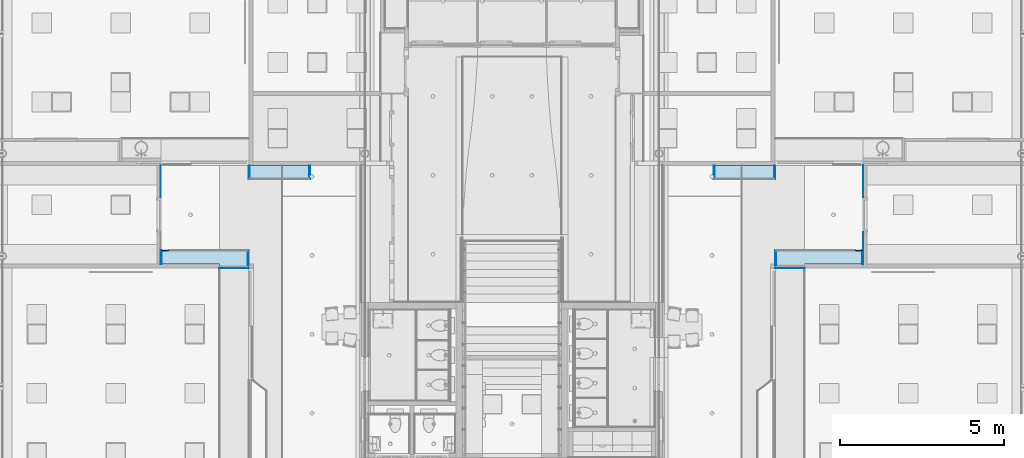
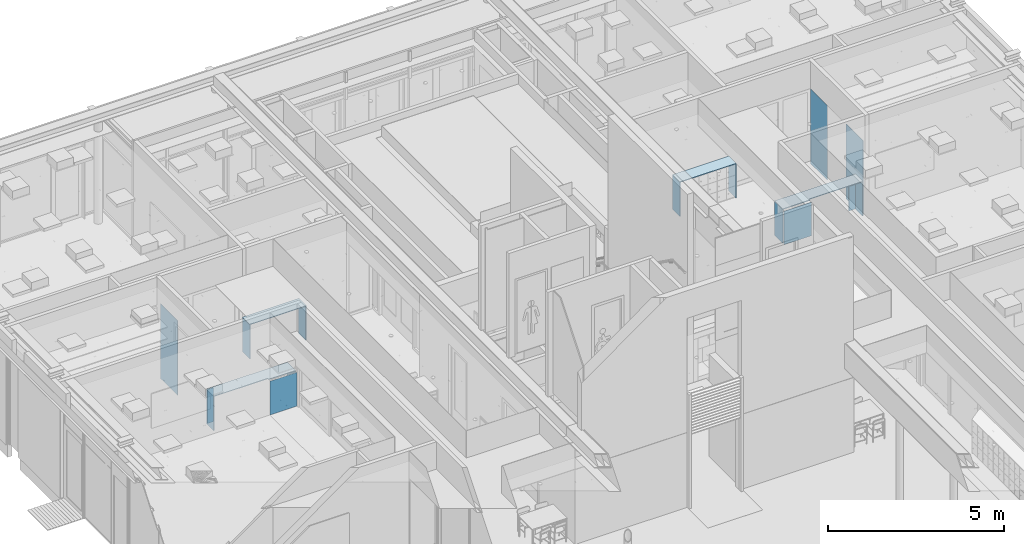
# One storey, part 39 of 347: 19 plates.
"""IFC2X3 building model written with IfcOpenShell, lengths in millimetres."""

from ifc_helpers import new_model, entity, si_unit, converted_unit, derived_unit, money_unit, direction, frame, origin_with_axes, place, context, subcontext, project, spatial, faceted_brep, material, type_object, element, save


model = new_model("IFC2X3")

# Units and contexts
model_context = context("Model", 3, precision=0.01, world=origin_with_axes(), true_north=direction((0.0, 1.0)))
plan_context = context("Plan", 3, precision=0.01, world=origin_with_axes(), true_north=direction((0.0, 1.0)))
body_context = subcontext(model_context, "Body", "Model", "MODEL_VIEW")
ifc_project = project(units=[si_unit("LENGTHUNIT", "METRE", prefix="MILLI"), si_unit("AREAUNIT", "SQUARE_METRE"), si_unit("VOLUMEUNIT", "CUBIC_METRE"), converted_unit("PLANEANGLEUNIT", "DEGREE", entity("IfcPlaneAngleMeasure", 0.0174532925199), si_unit("PLANEANGLEUNIT", "RADIAN"), dimensions=[0, 0, 0, 0, 0, 0, 0]), money_unit("EUR"), converted_unit("TIMEUNIT", "Year", entity("IfcTimeMeasure", 31556926.0), si_unit("TIMEUNIT", "SECOND"), dimensions=[0, 0, 1, 0, 0, 0, 0]), si_unit("MASSUNIT", "GRAM", prefix="KILO"), si_unit("THERMODYNAMICTEMPERATUREUNIT", "DEGREE_CELSIUS"), si_unit("LUMINOUSINTENSITYUNIT", "LUMEN"), si_unit("ENERGYUNIT", "JOULE", prefix="MEGA"), derived_unit("THERMALCONDUCTANCEUNIT", [(si_unit("POWERUNIT", "WATT"), 1), (si_unit("LENGTHUNIT", "METRE"), -1), (si_unit("THERMODYNAMICTEMPERATUREUNIT", "KELVIN"), -1)]), derived_unit("SPECIFICHEATCAPACITYUNIT", [(si_unit("ENERGYUNIT", "JOULE"), 1), (si_unit("MASSUNIT", "GRAM", prefix="KILO"), -1), (si_unit("THERMODYNAMICTEMPERATUREUNIT", "KELVIN"), -1)]), derived_unit("MASSDENSITYUNIT", [(si_unit("MASSUNIT", "GRAM", prefix="KILO"), 1), (si_unit("VOLUMEUNIT", "CUBIC_METRE"), -1)])], contexts=[model_context, plan_context])

# Site, building, storey
site_placement = place(None, origin_with_axes())
site = spatial("IfcSite", under=ifc_project, at=site_placement, Name="Site", CompositionType="ELEMENT")
building_placement = place(site_placement, origin_with_axes())
building = spatial("IfcBuilding", under=site, at=building_placement, Name="Naam gebouw", CompositionType="ELEMENT")
storey_placement = place(building_placement, origin_with_axes())
storey = spatial("IfcBuildingStorey", under=building, at=storey_placement, Name="begane grond", CompositionType="ELEMENT", Elevation=0.0)

# Plates
ifc_material_1 = material(Name="Hout - Lockers")
plate_type_1 = type_object("IfcPlateType", Name="Hout - Lockers 1175", PredefinedType="SHEET")
for number, where, z_axis, x_axis, name in (
    (1, (31175.0, 35837.5, 0.0), (0.0, 0.0, 1.0), (1.0, 0.0, 0.0), "72_72 vaste inrichting"),
    (2, (48082.0, 35837.5, 0.0), (0.0, 0.0, 1.0), (1.0, 0.0, 0.0), "72_72 vaste inrichting"),
):
    element("IfcPlate", number, at=place(storey_placement, frame(where, z_axis=z_axis, x_axis=x_axis)), inside=storey, type_object=plate_type_1, material=ifc_material_1, Name=name, ObjectType="SHEET", context=body_context, shape_type="Brep", body=[
        faceted_brep([(0.0, 0.0, 1175.0), (0.0, 0.0, 0.0), (893.0, 0.0, 0.0), (893.0, 0.0, 1175.0), (0.0, 0.999999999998, 1175.0), (0.0, 0.999999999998, 0.0), (893.0, 0.999999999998, 0.0), (893.0, 0.999999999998, 1175.0)], [[[0, 1, 2, 3]], [[4, 5, 1, 0]], [[2, 1, 5, 6]], [[3, 2, 6, 7]], [[4, 0, 3, 7]], [[7, 6, 5, 4]]]),
    ])
ifc_material_2 = material(Name="ALG - LICHTE SCHEIDINGSWAND - master")
plate_type_2 = type_object("IfcPlateType", Name="ALG - LICHTE SCHEIDINGSWAND - master 2600", PredefinedType="SHEET")
plate_1_placement = place(storey_placement, frame((50762.5, 37994.5000179, 0.0), z_axis=(0.0, 0.0, 1.0), x_axis=(1.0, 0.0, 0.0)))
element("IfcPlate", 3, at=plate_1_placement, inside=storey, type_object=plate_type_2, material=ifc_material_2, Name="72_72 vaste inrichting", ObjectType="SHEET", context=body_context, shape_type="Brep", body=[
    faceted_brep([(0.0, 0.0, 2600.0), (0.0, 0.0, 0.0), (0.0, 967.999982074, 0.0), (0.0, 967.999982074, 2600.0), (-12.5, 0.0, 2600.0), (-12.5, 0.0, 0.0), (-12.5, 967.999982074, 0.0), (-12.5, 967.999982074, 2600.0)], [[[0, 1, 2, 3]], [[4, 5, 1, 0]], [[2, 1, 5, 6]], [[3, 2, 6, 7]], [[4, 0, 3, 7]], [[7, 6, 5, 4]]]),
])
plate_2_placement = place(storey_placement, frame((50762.5, 35962.5, 0.0), z_axis=(0.0, 0.0, 1.0), x_axis=(1.0, 0.0, 0.0)))
element("IfcPlate", 4, at=plate_2_placement, inside=storey, type_object=plate_type_2, material=ifc_material_2, Name="72_72 vaste inrichting", ObjectType="SHEET", context=body_context, shape_type="Brep", body=[
    faceted_brep([(0.0, 0.0, 2600.0), (0.0, 0.0, 0.0), (0.0, 968.000017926, 0.0), (0.0, 968.000017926, 2600.0), (-12.5, 0.0, 2600.0), (-12.5, 0.0, 0.0), (-12.5, 968.000017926, 0.0), (-12.5, 968.000017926, 2600.0)], [[[0, 1, 2, 3]], [[4, 5, 1, 0]], [[2, 1, 5, 6]], [[3, 2, 6, 7]], [[4, 0, 3, 7]], [[7, 6, 5, 4]]]),
])
plate_3_placement = place(storey_placement, frame((29387.5, 37994.5000179, 0.0), z_axis=(0.0, 0.0, 1.0), x_axis=(1.0, 0.0, 0.0)))
element("IfcPlate", 5, at=plate_3_placement, inside=storey, type_object=plate_type_2, material=ifc_material_2, Name="72_72 vaste inrichting", ObjectType="SHEET", context=body_context, shape_type="Brep", body=[
    faceted_brep([(0.0, 0.0, 2600.0), (0.0, 0.0, 0.0), (12.5, 0.0, 0.0), (12.5, 0.0, 2600.0), (0.0, 967.999982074, 2600.0), (0.0, 967.999982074, 0.0), (12.5, 967.999982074, 0.0), (12.5, 967.999982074, 2600.0)], [[[0, 1, 2, 3]], [[4, 5, 1, 0]], [[2, 1, 5, 6]], [[3, 2, 6, 7]], [[4, 0, 3, 7]], [[7, 6, 5, 4]]]),
])
plate_type_3 = type_object("IfcPlateType", Name="Hout - Lockers 1178", PredefinedType="SHEET")
plate_4_placement = place(storey_placement, frame((29422.0, 36362.5000293, 0.0), z_axis=(0.0, 0.0, 1.0), x_axis=(1.0, 0.0, 0.0)))
element("IfcPlate", 6, at=plate_4_placement, inside=storey, type_object=plate_type_3, material=ifc_material_1, Name="72_72 vaste inrichting", ObjectType="SHEET", context=body_context, shape_type="Brep", body=[
    faceted_brep([(0.0, 0.0, 1178.0), (0.0, 0.0, 0.0), (208.999997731, 0.0, 0.0), (208.999997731, 0.0, 1178.0), (0.0, 18.0, 1178.0), (0.0, 18.0, 0.0), (208.999997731, 18.0, 0.0), (208.999997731, 18.0, 1178.0)], [[[0, 1, 2, 3]], [[4, 5, 1, 0]], [[2, 1, 5, 6]], [[3, 2, 6, 7]], [[4, 0, 3, 7]], [[7, 6, 5, 4]]]),
])
plate_5_placement = place(storey_placement, frame((29422.0, 35962.5, 0.0), z_axis=(0.0, 0.0, 1.0), x_axis=(1.0, 0.0, 0.0)))
element("IfcPlate", 7, at=plate_5_placement, inside=storey, type_object=plate_type_3, material=ifc_material_1, Name="72_72 vaste inrichting", ObjectType="SHEET", context=body_context, shape_type="Brep", body=[
    faceted_brep([(0.0, 0.0, 1178.0), (0.0, 0.0, 0.0), (0.0, 418.000029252, 0.0), (0.0, 418.000029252, 1178.0), (-22.0, 0.0, 1178.0), (-22.0, 0.0, 0.0), (-22.0, 418.000029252, 0.0), (-22.0, 418.000029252, 1178.0)], [[[0, 1, 2, 3]], [[4, 5, 1, 0]], [[2, 1, 5, 6]], [[3, 2, 6, 7]], [[4, 0, 3, 7]], [[7, 6, 5, 4]]]),
])
plate_6_placement = place(storey_placement, frame((32067.9999977, 35906.5000301, 0.0), z_axis=(0.0, 0.0, 1.0), x_axis=(1.0, 0.0, 0.0)))
element("IfcPlate", 8, at=plate_6_placement, inside=storey, type_object=plate_type_3, material=ifc_material_1, Name="72_72 vaste inrichting", ObjectType="SHEET", context=body_context, shape_type="Brep", body=[
    faceted_brep([(0.0, 0.0, 1178.0), (0.0, 0.0, 0.0), (0.0, 473.99999915, 0.0), (0.0, 473.99999915, 1178.0), (-22.0, 0.0, 1178.0), (-22.0, 0.0, 0.0), (-22.0, 473.99999915, 0.0), (-22.0, 473.99999915, 1178.0)], [[[0, 1, 2, 3]], [[4, 5, 1, 0]], [[2, 1, 5, 6]], [[3, 2, 6, 7]], [[4, 0, 3, 7]], [[7, 6, 5, 4]]]),
])
for number, where, z_axis, x_axis, name in (
    (9, (46235.0, 38957.5, 0.0), (0.0, 0.0, 1.0), (1.0, 0.0, 0.0), "72_72 vaste inrichting"),
    (10, (48075.0, 38957.5, 0.0), (0.0, 0.0, 1.0), (1.0, 0.0, 0.0), "72_72 vaste inrichting"),
):
    element("IfcPlate", number, at=place(storey_placement, frame(where, z_axis=z_axis, x_axis=x_axis)), inside=storey, type_object=plate_type_3, material=ifc_material_1, Name=name, ObjectType="SHEET", context=body_context, shape_type="Brep", body=[
        faceted_brep([(0.0, 0.0, 1178.0), (0.0, 0.0, 0.0), (-22.0, 0.0, 0.0), (-22.0, 0.0, 1178.0), (0.0, -420.0, 1178.0), (0.0, -420.0, 0.0), (-22.0, -420.0, 0.0), (-22.0, -420.0, 1178.0)], [[[0, 1, 2, 3]], [[4, 5, 1, 0]], [[2, 1, 5, 6]], [[3, 2, 6, 7]], [[4, 0, 3, 7]], [[7, 6, 5, 4]]]),
    ])
plate_7_placement = place(storey_placement, frame((50727.9999977, 36362.5000133, 0.0), z_axis=(0.0, 0.0, 1.0), x_axis=(1.0, 0.0, 0.0)))
element("IfcPlate", 11, at=plate_7_placement, inside=storey, type_object=plate_type_3, material=ifc_material_1, Name="72_72 vaste inrichting", ObjectType="SHEET", context=body_context, shape_type="Brep", body=[
    faceted_brep([(0.0, 0.0, 1178.0), (0.0, 0.0, 0.0), (0.0, 18.0, 0.0), (0.0, 18.0, 1178.0), (-208.999997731, 0.0, 1178.0), (-208.999997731, 0.0, 0.0), (-208.999997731, 18.0, 0.0), (-208.999997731, 18.0, 1178.0)], [[[0, 1, 2, 3]], [[4, 5, 1, 0]], [[2, 1, 5, 6]], [[3, 2, 6, 7]], [[4, 0, 3, 7]], [[7, 6, 5, 4]]]),
])
plate_8_placement = place(storey_placement, frame((50727.9999977, 35962.5, 0.0), z_axis=(0.0, 0.0, 1.0), x_axis=(1.0, 0.0, 0.0)))
element("IfcPlate", 12, at=plate_8_placement, inside=storey, type_object=plate_type_3, material=ifc_material_1, Name="72_72 vaste inrichting", ObjectType="SHEET", context=body_context, shape_type="Brep", body=[
    faceted_brep([(0.0, 0.0, 1178.0), (0.0, 0.0, 0.0), (22.0, 0.0, 0.0), (22.0, 0.0, 1178.0), (0.0, 418.000013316, 1178.0), (0.0, 418.000013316, 0.0), (22.0, 418.000013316, 0.0), (22.0, 418.000013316, 1178.0)], [[[0, 1, 2, 3]], [[4, 5, 1, 0]], [[2, 1, 5, 6]], [[3, 2, 6, 7]], [[4, 0, 3, 7]], [[7, 6, 5, 4]]]),
])
plate_9_placement = place(storey_placement, frame((48082.0, 35906.5000142, 0.0), z_axis=(0.0, 0.0, 1.0), x_axis=(1.0, 0.0, 0.0)))
element("IfcPlate", 13, at=plate_9_placement, inside=storey, type_object=plate_type_3, material=ifc_material_1, Name="72_72 vaste inrichting", ObjectType="SHEET", context=body_context, shape_type="Brep", body=[
    faceted_brep([(0.0, 0.0, 1178.0), (0.0, 0.0, 0.0), (22.0, 0.0, 0.0), (22.0, 0.0, 1178.0), (0.0, 473.99999915, 1178.0), (0.0, 473.99999915, 0.0), (22.0, 473.99999915, 0.0), (22.0, 473.99999915, 1178.0)], [[[0, 1, 2, 3]], [[4, 5, 1, 0]], [[2, 1, 5, 6]], [[3, 2, 6, 7]], [[4, 0, 3, 7]], [[7, 6, 5, 4]]]),
])
for number, where, z_axis, x_axis, name in (
    (14, (33937.0, 38957.5, 0.0), (0.0, 0.0, 1.0), (1.0, 0.0, 0.0), "72_72 vaste inrichting"),
    (15, (32097.0, 38957.5, 0.0), (0.0, 0.0, 1.0), (1.0, 0.0, 0.0), "72_72 vaste inrichting"),
):
    element("IfcPlate", number, at=place(storey_placement, frame(where, z_axis=z_axis, x_axis=x_axis)), inside=storey, type_object=plate_type_3, material=ifc_material_1, Name=name, ObjectType="SHEET", context=body_context, shape_type="Brep", body=[
        faceted_brep([(0.0, 0.0, 1178.0), (0.0, 0.0, 0.0), (-22.0, 0.0, 0.0), (-22.0, 0.0, 1178.0), (0.0, -420.0, 1178.0), (0.0, -420.0, 0.0), (-22.0, -420.0, 0.0), (-22.0, -420.0, 1178.0)], [[[0, 1, 2, 3]], [[4, 5, 1, 0]], [[2, 1, 5, 6]], [[3, 2, 6, 7]], [[4, 0, 3, 7]], [[7, 6, 5, 4]]]),
    ])
plate_type_4 = type_object("IfcPlateType", Name="Hout - Lockers 22", PredefinedType="SHEET")
plate_10_placement = place(storey_placement, frame((48075.0, 38957.5, 1200.0), z_axis=(0.0, 0.0, 1.0), x_axis=(1.0, 0.0, 0.0)))
element("IfcPlate", 16, at=plate_10_placement, inside=storey, type_object=plate_type_4, material=ifc_material_1, Name="72_72 vaste inrichting", ObjectType="SHEET", context=body_context, shape_type="Brep", body=[
    faceted_brep([(0.0, 0.0, 0.0), (0.0, 0.0, -22.0), (-1862.0, 0.0, -22.0), (-1862.0, 0.0, 0.0), (0.0, -420.0, 0.0), (0.0, -420.0, -22.0), (-1862.0, -420.0, -22.0), (-1862.0, -420.0, 0.0)], [[[0, 1, 2, 3]], [[4, 5, 1, 0]], [[2, 1, 5, 6]], [[3, 2, 6, 7]], [[4, 0, 3, 7]], [[7, 6, 5, 4]]]),
])
plate_11_placement = place(storey_placement, frame((29400.0, 36380.5000293, 1200.0), z_axis=(0.0, 0.0, 1.0), x_axis=(1.0, 0.0, 0.0)))
element("IfcPlate", 17, at=plate_11_placement, inside=storey, type_object=plate_type_4, material=ifc_material_1, Name="72_72 vaste inrichting", ObjectType="SHEET", context=body_context, shape_type="Brep", body=[
    faceted_brep([(0.0, 0.0, 0.0), (0.0, 0.0, -22.0), (0.0, -418.000029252, -22.0), (0.0, -418.000029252, 0.0), (2667.99999773, 0.0, 0.0), (2667.99999773, 0.0, -22.0), (2667.99999773, -470.500029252, -22.0), (1775.0000178, -470.500029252, -22.0), (1775.0000178, -417.999989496, -22.0), (1775.0000178, -417.999989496, 0.0), (1775.0000178, -470.500029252, 0.0), (2667.99999773, -470.500029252, 0.0)], [[[0, 1, 2, 3]], [[4, 5, 1, 0]], [[2, 1, 5, 6, 7, 8]], [[3, 2, 8, 9]], [[4, 0, 3, 9, 10, 11]], [[11, 6, 5, 4]], [[10, 7, 6, 11]], [[9, 8, 7, 10]]]),
])
plate_12_placement = place(storey_placement, frame((50749.9999977, 36380.5000133, 1200.0), z_axis=(0.0, 0.0, 1.0), x_axis=(1.0, 0.0, 0.0)))
element("IfcPlate", 18, at=plate_12_placement, inside=storey, type_object=plate_type_4, material=ifc_material_1, Name="72_72 vaste inrichting", ObjectType="SHEET", context=body_context, shape_type="Brep", body=[
    faceted_brep([(0.0, 0.0, 0.0), (0.0, 0.0, -22.0), (-2667.99999773, 0.0, -22.0), (-2667.99999773, 0.0, 0.0), (0.0, -418.000029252, 0.0), (0.0, -418.000029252, -22.0), (-1775.0000178, -417.999989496, -22.0), (-1775.0000178, -470.500013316, -22.0), (-2667.99999773, -470.500013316, -22.0), (-2667.99999773, -470.500013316, 0.0), (-1775.0000178, -470.500013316, 0.0), (-1775.0000178, -417.999989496, 0.0)], [[[0, 1, 2, 3]], [[4, 5, 1, 0]], [[2, 1, 5, 6, 7, 8]], [[3, 2, 8, 9]], [[4, 0, 3, 9, 10, 11]], [[11, 6, 5, 4]], [[10, 7, 6, 11]], [[9, 8, 7, 10]]]),
])
plate_13_placement = place(storey_placement, frame((33937.0, 38957.5, 1200.0), z_axis=(0.0, 0.0, 1.0), x_axis=(1.0, 0.0, 0.0)))
element("IfcPlate", 19, at=plate_13_placement, inside=storey, type_object=plate_type_4, material=ifc_material_1, Name="72_72 vaste inrichting", ObjectType="SHEET", context=body_context, shape_type="Brep", body=[
    faceted_brep([(0.0, 0.0, 0.0), (0.0, 0.0, -22.0), (-1862.0, 0.0, -22.0), (-1862.0, 0.0, 0.0), (0.0, -420.0, 0.0), (0.0, -420.0, -22.0), (-1862.0, -420.0, -22.0), (-1862.0, -420.0, 0.0)], [[[0, 1, 2, 3]], [[4, 5, 1, 0]], [[2, 1, 5, 6]], [[3, 2, 6, 7]], [[4, 0, 3, 7]], [[7, 6, 5, 4]]]),
])

save(model, "model.ifc")
